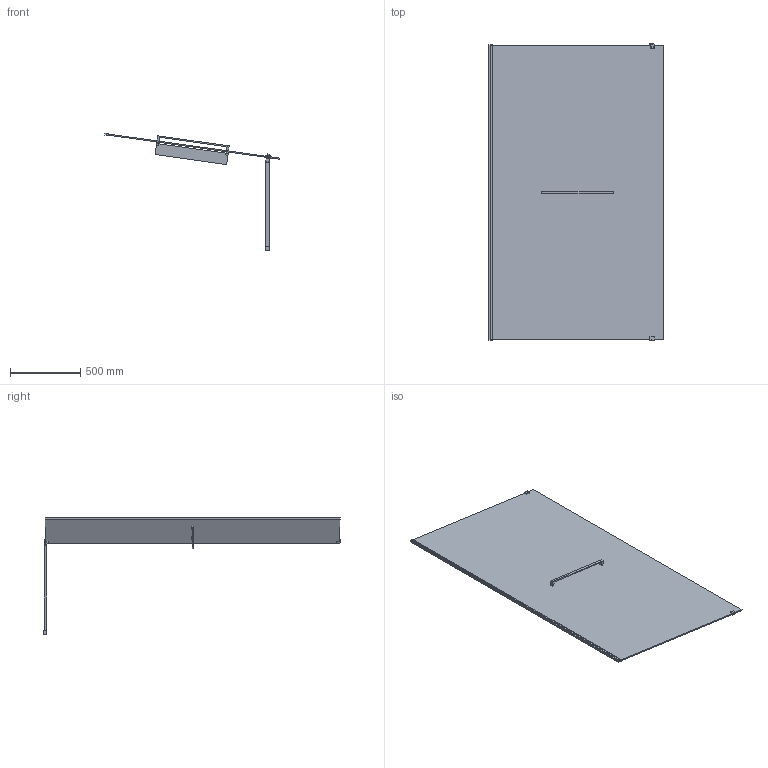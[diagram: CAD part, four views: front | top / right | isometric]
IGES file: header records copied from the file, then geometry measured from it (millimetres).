
Start section: SolidWorks IGES file using analytic representation for surfaces
Global section: file name: D:\Users\M.Szymanski\Desktop\Kabiny\PT\03. do przegrania\PT_ALTIIa_130_z_relingiem_i_polka_K3D.IGS; native system: SolidWorks 2011; preprocessor: SolidWorks 2011; author: M.Szymanski; date: 181004.121645; units: millimetre
Bounding box: 1245.97 x 2115 x 837.46 mm (x, y, z)
Surface area: 5698209.1 mm2 (no closed solid volume)
Topology: 0 solids, 0 shells, 90 faces, 675 edges, 900 vertices
Faces by surface type: bspline 84, revolution 6
